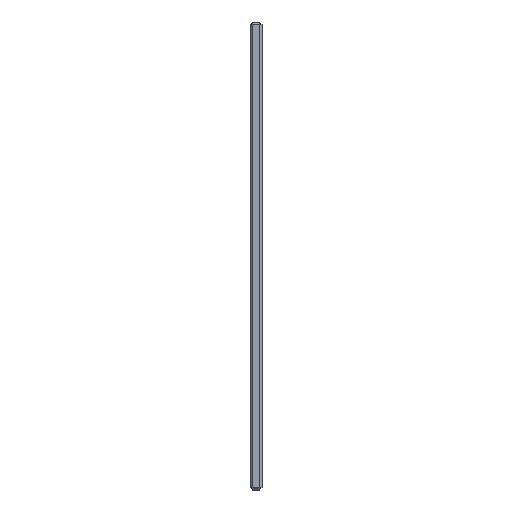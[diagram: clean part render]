
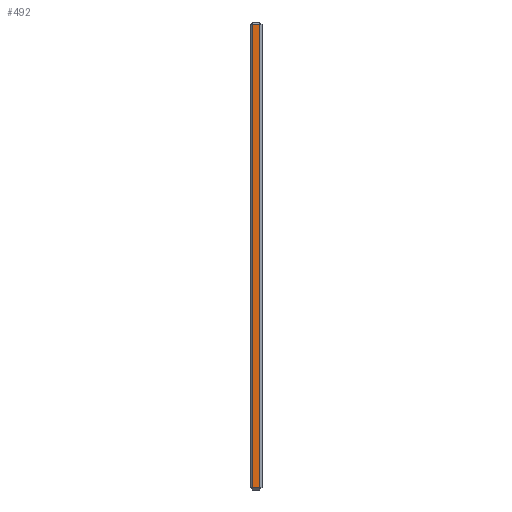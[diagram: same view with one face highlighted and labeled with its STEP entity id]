
A CAD part, left-side view. The second image highlights one B-rep face of the part: STEP entity #492.
In plain terms, the highlighted planar face has unit normal (-1, 0, 0).
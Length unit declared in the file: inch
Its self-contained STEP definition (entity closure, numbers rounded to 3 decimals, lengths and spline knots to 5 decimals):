
#8 = CARTESIAN_POINT ( 'NONE',  ( -3.9375, 0.2, 4.825 ) ) ;
#41 = VECTOR ( 'NONE', #1710, 39.37008 ) ;
#46 = VERTEX_POINT ( 'NONE', #649 ) ;
#85 = EDGE_CURVE ( 'NONE', #259, #997, #605, .T. ) ;
#259 = VERTEX_POINT ( 'NONE', #8 ) ;
#371 = EDGE_CURVE ( 'NONE', #997, #1684, #623, .T. ) ;
#480 = EDGE_CURVE ( 'NONE', #46, #259, #734, .T. ) ;
#490 = EDGE_LOOP ( 'NONE', ( #1153, #907, #1201, #1078 ) ) ;
#492 = ADVANCED_FACE ( 'Placement Plane', ( #692 ), #1177, .F. ) ;
#518 = CARTESIAN_POINT ( 'NONE',  ( -3.9375, 0.05, -4.875 ) ) ;
#605 = LINE ( 'NONE', #1214, #931 ) ;
#623 = LINE ( 'NONE', #867, #1075 ) ;
#649 = CARTESIAN_POINT ( 'NONE',  ( -3.9375, 0.05, 4.825 ) ) ;
#692 = FACE_OUTER_BOUND ( 'NONE', #490, .T. ) ;
#734 = LINE ( 'NONE', #755, #41 ) ;
#755 = CARTESIAN_POINT ( 'NONE',  ( -3.9375, 0.25, 4.825 ) ) ;
#786 = EDGE_CURVE ( 'NONE', #1684, #46, #1292, .T. ) ;
#798 = DIRECTION ( 'NONE',  ( 0., 0., -1. ) ) ;
#808 = DIRECTION ( 'NONE',  ( 0., 0., 1. ) ) ;
#867 = CARTESIAN_POINT ( 'NONE',  ( -3.9375, 0.25, -4.825 ) ) ;
#892 = AXIS2_PLACEMENT_3D ( 'NONE', #1040, #1702, #1302 ) ;
#907 = ORIENTED_EDGE ( 'NONE', *, *, #371, .T. ) ;
#931 = VECTOR ( 'NONE', #798, 39.37008 ) ;
#943 = CARTESIAN_POINT ( 'NONE',  ( -3.9375, 0.05, -4.825 ) ) ;
#997 = VERTEX_POINT ( 'NONE', #1497 ) ;
#999 = DIRECTION ( 'NONE',  ( 0., -1., 0. ) ) ;
#1040 = CARTESIAN_POINT ( 'NONE',  ( -3.9375, 0.25, -4.875 ) ) ;
#1075 = VECTOR ( 'NONE', #999, 39.37008 ) ;
#1078 = ORIENTED_EDGE ( 'NONE', *, *, #480, .T. ) ;
#1153 = ORIENTED_EDGE ( 'NONE', *, *, #85, .T. ) ;
#1177 = PLANE ( 'NONE',  #892 ) ;
#1201 = ORIENTED_EDGE ( 'NONE', *, *, #786, .T. ) ;
#1214 = CARTESIAN_POINT ( 'NONE',  ( -3.9375, 0.2, -4.875 ) ) ;
#1292 = LINE ( 'NONE', #518, #1427 ) ;
#1302 = DIRECTION ( 'NONE',  ( 0., 0., -1. ) ) ;
#1427 = VECTOR ( 'NONE', #808, 39.37008 ) ;
#1497 = CARTESIAN_POINT ( 'NONE',  ( -3.9375, 0.2, -4.825 ) ) ;
#1684 = VERTEX_POINT ( 'NONE', #943 ) ;
#1702 = DIRECTION ( 'NONE',  ( 1., 0., 0. ) ) ;
#1710 = DIRECTION ( 'NONE',  ( 0., 1., 0. ) ) ;
